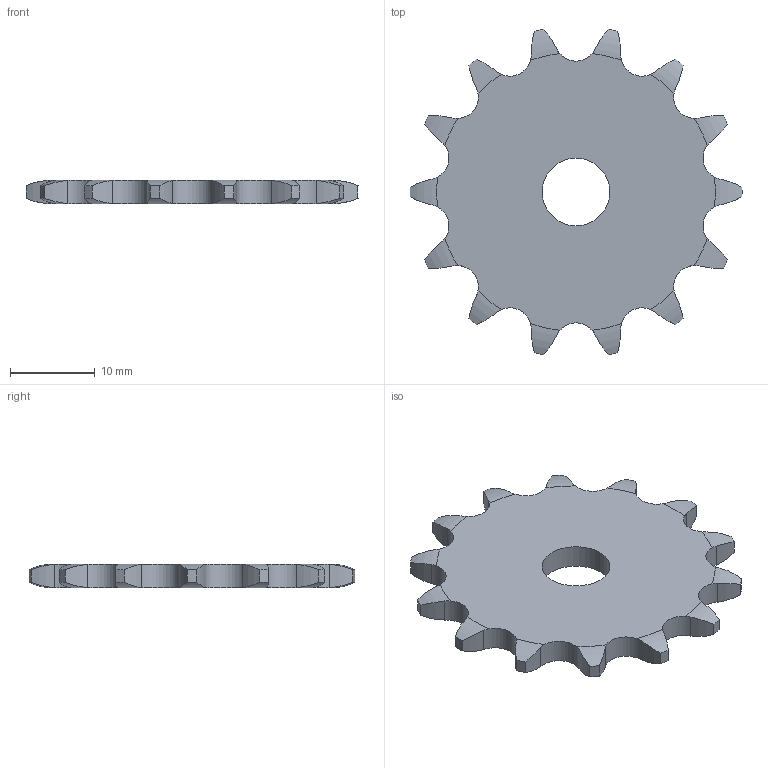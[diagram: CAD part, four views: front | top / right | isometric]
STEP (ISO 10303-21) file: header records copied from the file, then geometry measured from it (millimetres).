
FILE_DESCRIPTION((''),'2;1');
FILE_NAME('500-081-0014_PRT','2021-02-12T',('Brieden'),('Brieden'),'PRO/ENGINEER BY PARAMETRIC TECHNOLOGY CORPORATION, 2010160','PRO/ENGINEER BY PARAMETRIC TECHNOLOGY CORPORATION, 2010160','');
FILE_SCHEMA(('AUTOMOTIVE_DESIGN { 1 0 10303 214 1 1 1 1 }'));
Length unit declared in the file: millimetre
Products named in the file (1): 500-081-0014_PRT
Bounding box: 39.2 x 38.45 x 2.8 mm (x, y, z)
Volume: 2401.8 mm3; surface area: 2239.8 mm2
Topology: 1 solids, 1 shells, 88 faces, 258 edges, 172 vertices
Faces by surface type: cylinder 58, torus 28, plane 2
Entity records: 4256 total; most frequent: CARTESIAN_POINT 1203, ORIENTED_EDGE 516, DIRECTION 410, PRESENTATION_STYLE_ASSIGNMENT 259, STYLED_ITEM 259, CURVE_STYLE 258, EDGE_CURVE 258, AXIS2_PLACEMENT_3D 176
